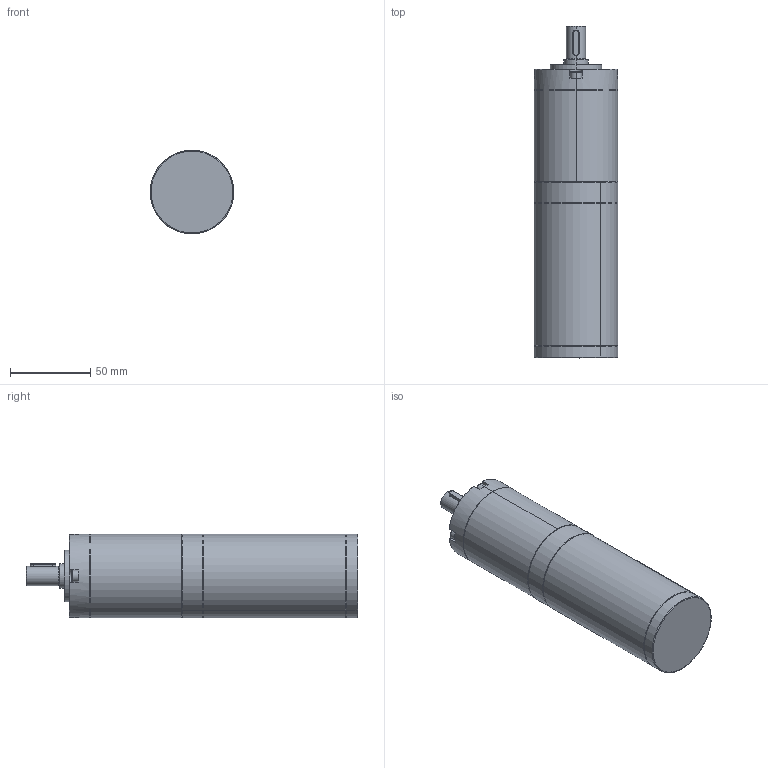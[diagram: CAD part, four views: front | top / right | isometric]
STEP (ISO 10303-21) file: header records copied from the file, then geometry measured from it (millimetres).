
FILE_DESCRIPTION (( 'STEP AP203' ), '1' );
FILE_NAME ('52BLD60W减速比三级整机.STEP', '2021-07-16T03:01:29', ( '' ), ( '' ), 'SwSTEP 2.0', 'SolidWorks 2021', '' );
FILE_SCHEMA (( 'CONFIG_CONTROL_DESIGN' ));
Length unit declared in the file: millimetre
Products named in the file (3): 52酗; 52BLD60W减速比三级整机; 52PN三级
Assembly tree (2 placements, depth 2):
  52BLD60W减速比三级整机
    52PN三级
    52酗
Bounding box: 52 x 206.8 x 52 mm (x, y, z)
Volume: 382087.5 mm3; surface area: 40782 mm2
Topology: 2 solids, 2 shells, 162 faces, 378 edges, 225 vertices
Faces by surface type: plane 59, cone 46, cylinder 45, bspline 10, torus 2
Entity records: 5151 total; most frequent: CARTESIAN_POINT 1190, DIRECTION 806, ORIENTED_EDGE 736, EDGE_CURVE 368, AXIS2_PLACEMENT_3D 305, VERTEX_POINT 225, VECTOR 196, LINE 196
